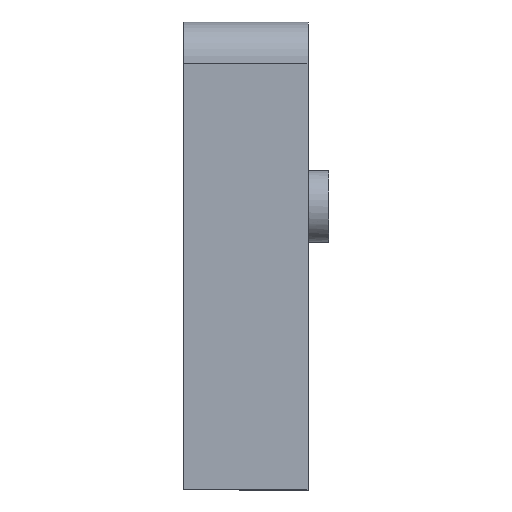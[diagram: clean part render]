
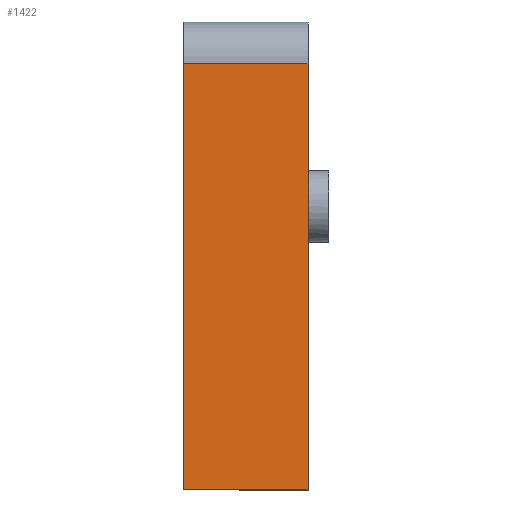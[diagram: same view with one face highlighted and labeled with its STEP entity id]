
A CAD part, left-side view. The second image highlights one B-rep face of the part: STEP entity #1422.
In plain terms, the highlighted planar face has unit normal (-1, 0, 0).
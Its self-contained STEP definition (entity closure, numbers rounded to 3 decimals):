
#673 = VECTOR ( 'NONE', #11639, 1000. ) ;
#1422 = ADVANCED_FACE ( 'NONE', ( #2511 ), #7073, .T. ) ;
#1570 = EDGE_CURVE ( 'NONE', #9673, #8005, #1601, .T. ) ;
#1601 = LINE ( 'NONE', #12066, #6792 ) ;
#2047 = VERTEX_POINT ( 'NONE', #12153 ) ;
#2511 = FACE_OUTER_BOUND ( 'NONE', #10719, .T. ) ;
#3207 = DIRECTION ( 'NONE',  ( -1., 0., 0. ) ) ;
#3404 = ORIENTED_EDGE ( 'NONE', *, *, #11271, .T. ) ;
#3556 = CARTESIAN_POINT ( 'NONE',  ( -500., -120., 185. ) ) ;
#3624 = ORIENTED_EDGE ( 'NONE', *, *, #9227, .F. ) ;
#4162 = LINE ( 'NONE', #10096, #11635 ) ;
#4263 = EDGE_CURVE ( 'NONE', #5820, #2047, #7738, .T. ) ;
#4854 = CARTESIAN_POINT ( 'NONE',  ( -500., -0.5, -225. ) ) ;
#5161 = VECTOR ( 'NONE', #12634, 1000. ) ;
#5664 = ORIENTED_EDGE ( 'NONE', *, *, #4263, .T. ) ;
#5820 = VERTEX_POINT ( 'NONE', #10126 ) ;
#6792 = VECTOR ( 'NONE', #12032, 1000. ) ;
#7073 = PLANE ( 'NONE',  #8171 ) ;
#7184 = DIRECTION ( 'NONE',  ( 0., 1., 0. ) ) ;
#7738 = LINE ( 'NONE', #4854, #5161 ) ;
#8005 = VERTEX_POINT ( 'NONE', #3556 ) ;
#8171 = AXIS2_PLACEMENT_3D ( 'NONE', #11935, #3207, #10022 ) ;
#8704 = CARTESIAN_POINT ( 'NONE',  ( -500., -120., -225. ) ) ;
#8736 = LINE ( 'NONE', #9531, #673 ) ;
#9227 = EDGE_CURVE ( 'NONE', #9673, #2047, #8736, .T. ) ;
#9531 = CARTESIAN_POINT ( 'NONE',  ( -500., -120., -225. ) ) ;
#9673 = VERTEX_POINT ( 'NONE', #8704 ) ;
#10022 = DIRECTION ( 'NONE',  ( 0., 0., 1. ) ) ;
#10096 = CARTESIAN_POINT ( 'NONE',  ( -500., -120., 185. ) ) ;
#10126 = CARTESIAN_POINT ( 'NONE',  ( -500., -0.5, 185. ) ) ;
#10719 = EDGE_LOOP ( 'NONE', ( #3404, #5664, #3624, #10785 ) ) ;
#10785 = ORIENTED_EDGE ( 'NONE', *, *, #1570, .T. ) ;
#11271 = EDGE_CURVE ( 'NONE', #8005, #5820, #4162, .T. ) ;
#11635 = VECTOR ( 'NONE', #7184, 1000. ) ;
#11639 = DIRECTION ( 'NONE',  ( 0., 1., 0. ) ) ;
#11935 = CARTESIAN_POINT ( 'NONE',  ( -500., -120., -225. ) ) ;
#12032 = DIRECTION ( 'NONE',  ( 0., 0., 1. ) ) ;
#12066 = CARTESIAN_POINT ( 'NONE',  ( -500., -120., -225. ) ) ;
#12153 = CARTESIAN_POINT ( 'NONE',  ( -500., -0.5, -225. ) ) ;
#12634 = DIRECTION ( 'NONE',  ( 0., 0., -1. ) ) ;
